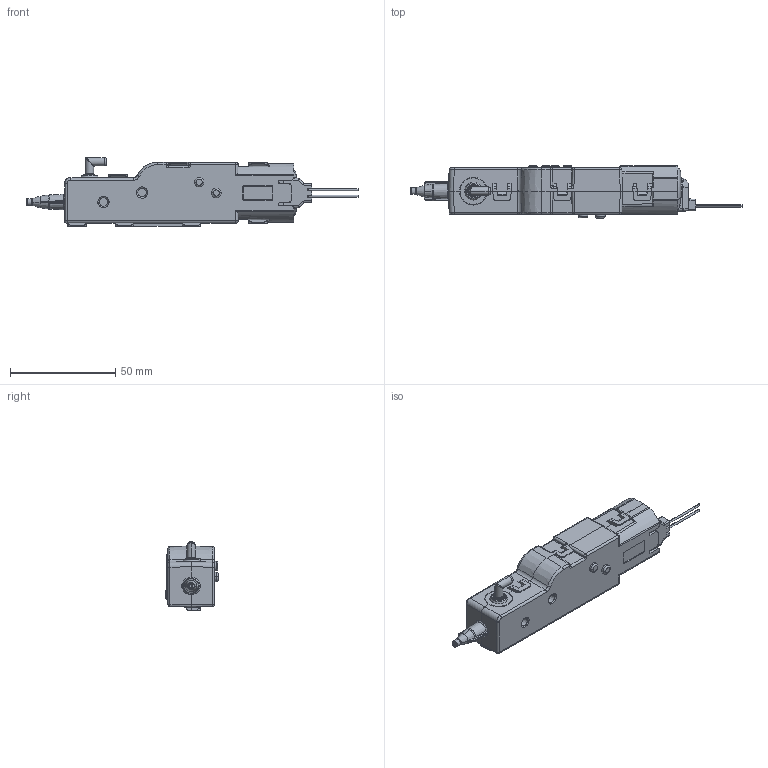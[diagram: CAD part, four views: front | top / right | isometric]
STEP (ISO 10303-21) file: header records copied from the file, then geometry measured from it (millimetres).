
FILE_DESCRIPTION((''),'2;1');
FILE_NAME('2-21-7-25','2024-04-11T16:45:24',('Administrator'),(''),'CREO PARAMETRIC BY PTC INC, 2022424','CREO PARAMETRIC BY PTC INC, 2022424','');
FILE_SCHEMA(('CONFIG_CONTROL_DESIGN'));
Length unit declared in the file: millimetre
Products named in the file (1): 2-21-7-25
Bounding box: 157.8 x 24.89 x 32.75 mm (x, y, z)
Volume: 62841.4 mm3; surface area: 14658 mm2
Topology: 1 solids, 6 shells, 741 faces, 1947 edges, 1222 vertices
Faces by surface type: plane 301, cylinder 238, bspline 94, torus 63, cone 34, sphere 11
Entity records: 27894 total; most frequent: CARTESIAN_POINT 10582, ORIENTED_EDGE 3872, DIRECTION 3249, EDGE_CURVE 1936, VERTEX_POINT 1222, AXIS2_PLACEMENT_3D 1154, VECTOR 941, LINE 941
